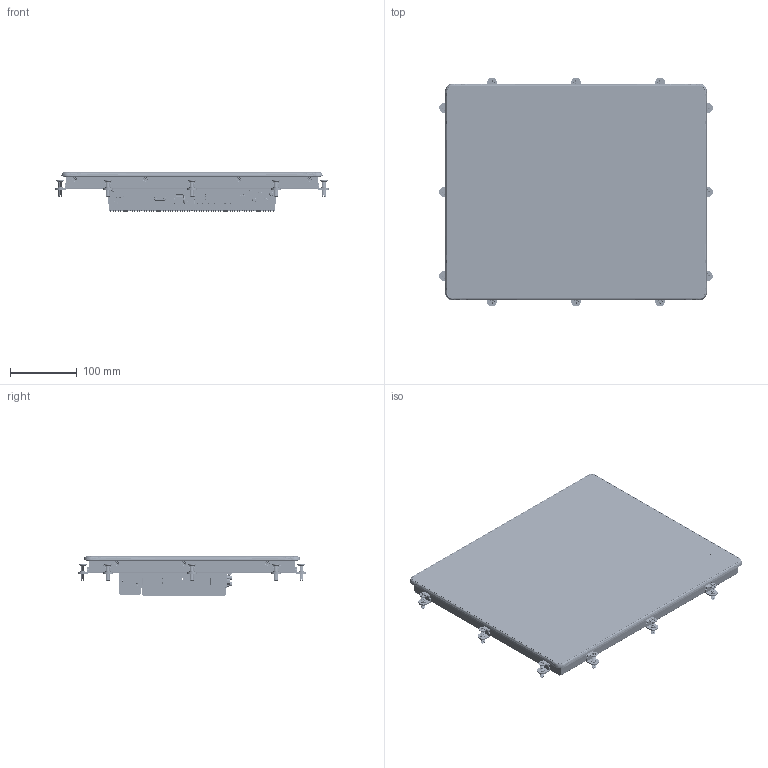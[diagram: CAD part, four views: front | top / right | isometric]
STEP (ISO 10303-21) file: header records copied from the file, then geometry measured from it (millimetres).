
FILE_DESCRIPTION((''),'2;1');
FILE_NAME('NP4C-170','2026-06-02T10:47:44',('gijyu181'),(''),'CREO PARAMETRIC BY PTC INC, 2018050','CREO PARAMETRIC BY PTC INC, 2018050','');
FILE_SCHEMA(('CONFIG_CONTROL_DESIGN','SHAPE_APPEARANCE_LAYERS_GROUPS'));
Products named in the file (1): NP4C-170
Bounding box: 410.1 x 342.6 x 58.5 mm (x, y, z)
Volume: 2144252.8 mm3; surface area: 1202846.4 mm2
Topology: 39 solids, 106 shells, 32361 faces, 93967 edges, 61942 vertices
Faces by surface type: plane 21740, cylinder 7659, extrusion 1414, bspline 618, cone 540, torus 249, sphere 125, revolution 16
Entity records: 1306433 total; most frequent: CARTESIAN_POINT 320085, ORIENTED_EDGE 186911, DIRECTION 164520, EDGE_CURVE 93883, VECTOR 73118, LINE 71704, VERTEX_POINT 61943, AXIS2_PLACEMENT_3D 45693
